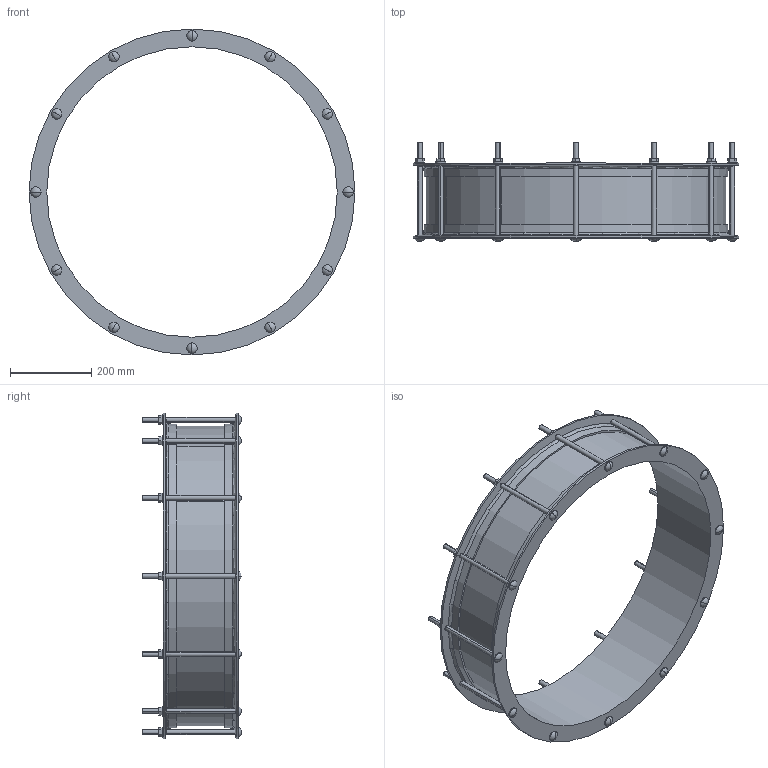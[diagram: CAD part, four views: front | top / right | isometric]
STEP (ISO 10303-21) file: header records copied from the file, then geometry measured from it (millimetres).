
FILE_DESCRIPTION((''),'2;1');
FILE_NAME('LO2_COUP_711','2018-12-06T',('mfairey'),('Glynwed Pipe Systems'),'CREO PARAMETRIC BY PTC INC, 2016130','CREO PARAMETRIC BY PTC INC, 2016130','');
FILE_SCHEMA(('CONFIG_CONTROL_DESIGN'));
Length unit declared in the file: millimetre
Products named in the file (1): LO2_COUP_711
Bounding box: 801.7 x 243.33 x 801.7 mm (x, y, z)
Volume: 6749441.4 mm3; surface area: 1283042.7 mm2
Topology: 1 solids, 1 shells, 252 faces, 676 edges, 428 vertices
Faces by surface type: plane 112, cylinder 104, sphere 24, cone 8, torus 4
Entity records: 9140 total; most frequent: CARTESIAN_POINT 2874, ORIENTED_EDGE 1304, DIRECTION 1272, EDGE_CURVE 652, AXIS2_PLACEMENT_3D 472, VERTEX_POINT 428, VECTOR 328, LINE 328
